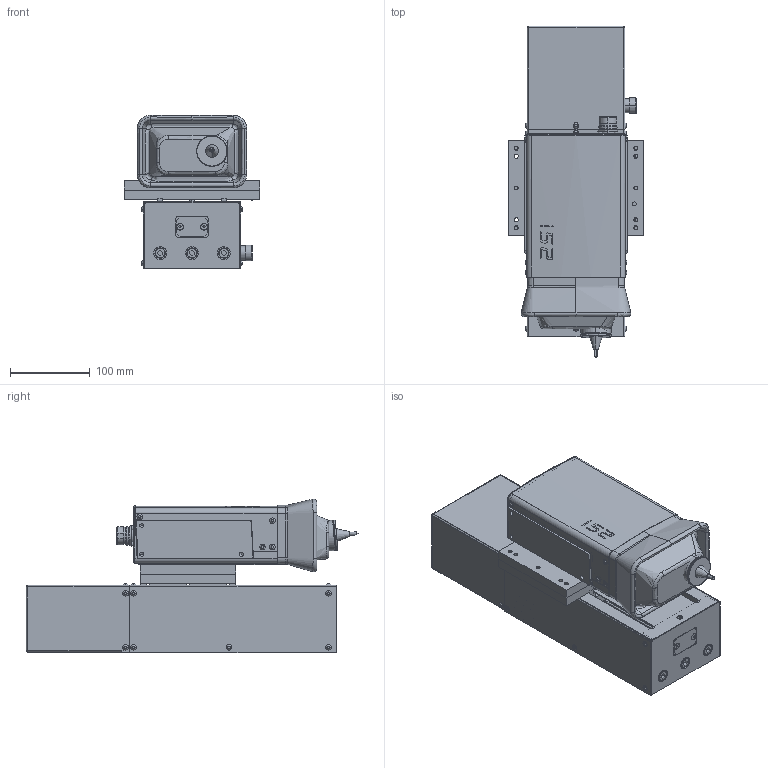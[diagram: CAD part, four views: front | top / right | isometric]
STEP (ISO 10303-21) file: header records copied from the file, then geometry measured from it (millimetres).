
FILE_DESCRIPTION (( 'STEP AP203' ), '1' );
FILE_NAME ('i52 SUR AXE Z 100MM.STEP', '2008-10-08T14:33:51', ( ' ' ), ( ' ' ), 'SwSTEP 2.0', 'SolidWorks 2008', '' );
FILE_SCHEMA (( 'CONFIG_CONTROL_DESIGN' ));
Products named in the file (1): i52 SUR AXE Z 100MM
Bounding box: 170 x 417.05 x 193.35 mm (x, y, z)
Volume: 2181102.8 mm3; surface area: 975794.6 mm2
Topology: 68 solids, 77 shells, 3779 faces, 9926 edges, 6319 vertices
Faces by surface type: cylinder 1910, plane 1191, cone 256, bspline 187, sphere 151, torus 84
Entity records: 145415 total; most frequent: CARTESIAN_POINT 51004, DIRECTION 20702, ORIENTED_EDGE 19426, EDGE_CURVE 9713, AXIS2_PLACEMENT_3D 8141, VERTEX_POINT 6263, CIRCLE 4548, VECTOR 4420
